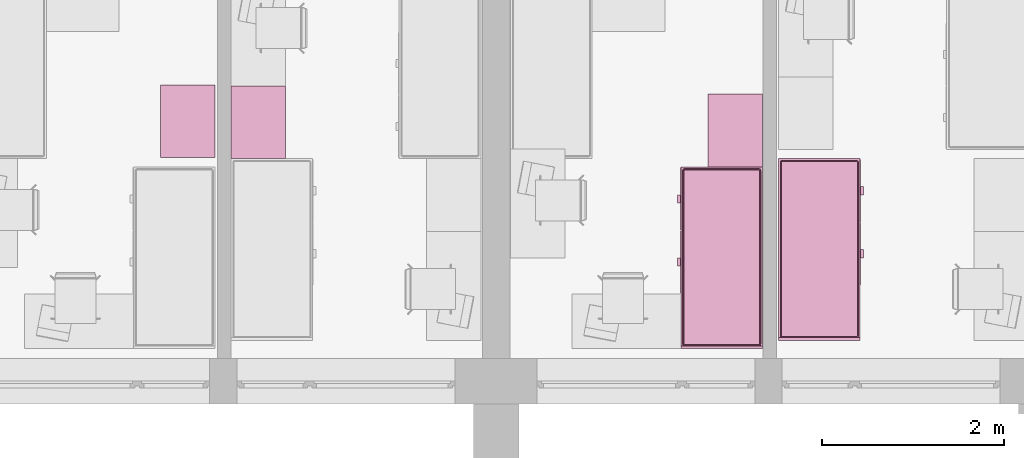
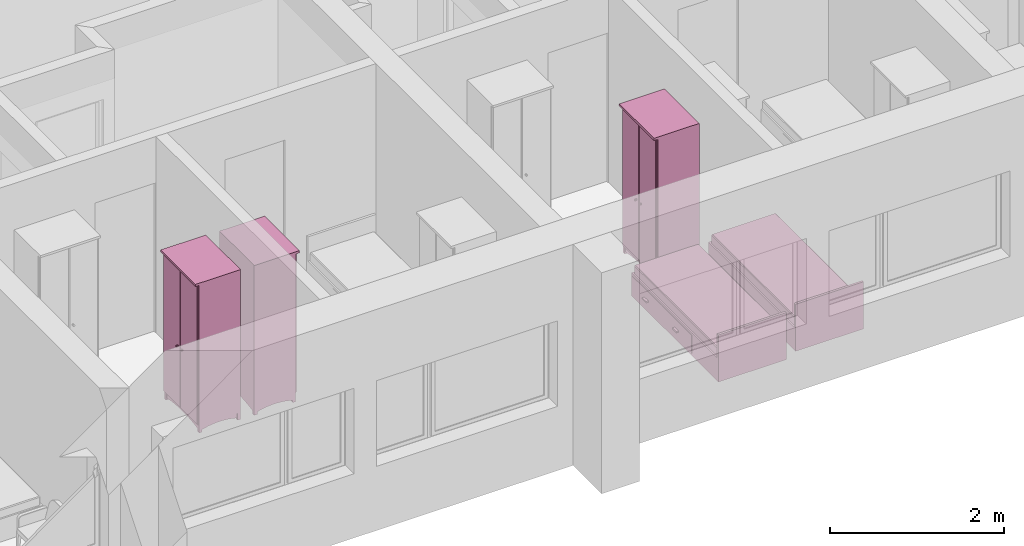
# One storey, part 129 of 172: 5 furnishings.
"""IFC2X3 building model written with IfcOpenShell, lengths in millimetres."""

from ifc_helpers import new_model, entity, si_unit, converted_unit, money_unit, direction, frame, origin_with_axes, place, context, subcontext, project, spatial, faceted_brep, source, transform, mapped, material, material_list, type_object, element, save


model = new_model("IFC2X3")

# Units and contexts
model_context = context("Model", 3, precision=1e-05, world=origin_with_axes(), true_north=direction((0.0, 1.0)))
body_context = subcontext(model_context, "Body", "Model", "MODEL_VIEW")
ifc_project = project(units=[si_unit("LENGTHUNIT", "METRE", prefix="MILLI"), si_unit("AREAUNIT", "SQUARE_METRE"), si_unit("VOLUMEUNIT", "CUBIC_METRE"), converted_unit("PLANEANGLEUNIT", "DEGREE", entity("IfcPlaneAngleMeasure", 0.0174532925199), si_unit("PLANEANGLEUNIT", "RADIAN"), dimensions=[0, 0, 0, 0, 0, 0, 0]), si_unit("SOLIDANGLEUNIT", "STERADIAN"), money_unit("USD"), converted_unit("TIMEUNIT", "Year", entity("IfcTimeMeasure", 31556926.0), si_unit("TIMEUNIT", "SECOND"), dimensions=[0, 0, 0, 0, 0, 0, 0]), si_unit("MASSUNIT", "GRAM"), si_unit("THERMODYNAMICTEMPERATUREUNIT", "DEGREE_CELSIUS"), si_unit("LUMINOUSINTENSITYUNIT", "LUMEN")], contexts=[model_context])

# Site, building, storey
site_placement = place(None, origin_with_axes())
site = spatial("IfcSite", under=ifc_project, at=site_placement, Name="Site", CompositionType="ELEMENT")
building_placement = place(site_placement, origin_with_axes())
building = spatial("IfcBuilding", under=site, at=building_placement, Name="Building", CompositionType="ELEMENT")
storey_placement = place(building_placement, frame((0.0, 0.0, 3200.0), z_axis=(0.0, 0.0, 1.0), x_axis=(1.0, 0.0, 0.0)))
storey = spatial("IfcBuildingStorey", under=building, at=storey_placement, Name="3KORRUS", CompositionType="ELEMENT", Elevation=3200.0)

# Furnishings
ifc_material = material(Name="Background")
ifc_material_list = material_list([ifc_material])
furnishing_element_type_1 = type_object("IfcFurnishingElementType", Name="Bed 19")
shared_shape_1 = source(origin_with_axes(), body_context, "Body", "Brep", [
    faceted_brep([(900.0, 1970.0, 0.0), (0.0, 1970.0, 0.0), (0.0, 2000.0, 0.0), (900.0, 2000.0, 0.0), (900.0, 1970.0, 660.0), (0.0, 1970.0, 660.0), (0.0, 2000.0, 660.0), (900.0, 2000.0, 660.0)], [[[0, 1, 2, 3]], [[1, 0, 4, 5]], [[2, 1, 5, 6]], [[3, 2, 6, 7]], [[0, 3, 7, 4]], [[5, 4, 7, 6]]]),
    faceted_brep([(900.0, 0.0, 0.0), (0.0, 0.0, 0.0), (0.0, 1970.0, 0.0), (900.0, 1970.0, 0.0), (900.0, 0.0, 320.0), (0.0, 0.0, 320.0), (0.0, 1970.0, 320.0), (900.0, 1970.0, 320.0)], [[[0, 1, 2, 3]], [[1, 0, 4, 5]], [[2, 1, 5, 6]], [[3, 2, 6, 7]], [[0, 3, 7, 4]], [[5, 4, 7, 6]]]),
    faceted_brep([(905.0, 10.0, 30.0), (900.0, 10.0, 30.0), (900.0, 695.0, 30.0), (905.0, 695.0, 30.0), (905.0, 10.0, 290.0), (900.0, 10.0, 290.0), (900.0, 695.0, 290.0), (905.0, 695.0, 290.0)], [[[0, 1, 2, 3]], [[1, 0, 4, 5]], [[2, 1, 5, 6]], [[3, 2, 6, 7]], [[0, 3, 7, 4]], [[5, 4, 7, 6]]]),
    faceted_brep([(935.0, 307.5, 150.0), (905.0, 307.5, 150.0), (905.0, 397.5, 150.0), (935.0, 397.5, 150.0), (935.0, 307.5, 170.0), (905.0, 307.5, 170.0), (905.0, 397.5, 170.0), (935.0, 397.5, 170.0)], [[[0, 1, 2, 3]], [[1, 0, 4, 5]], [[2, 1, 5, 6]], [[3, 2, 6, 7]], [[0, 3, 7, 4]], [[5, 4, 7, 6]]]),
    faceted_brep([(905.0, 705.0, 30.0), (900.0, 705.0, 30.0), (900.0, 1390.0, 30.0), (905.0, 1390.0, 30.0), (905.0, 705.0, 290.0), (900.0, 705.0, 290.0), (900.0, 1390.0, 290.0), (905.0, 1390.0, 290.0)], [[[0, 1, 2, 3]], [[1, 0, 4, 5]], [[2, 1, 5, 6]], [[3, 2, 6, 7]], [[0, 3, 7, 4]], [[5, 4, 7, 6]]]),
    faceted_brep([(935.0, 1002.5, 150.0), (905.0, 1002.5, 150.0), (905.0, 1092.5, 150.0), (935.0, 1092.5, 150.0), (935.0, 1002.5, 170.0), (905.0, 1002.5, 170.0), (905.0, 1092.5, 170.0), (935.0, 1092.5, 170.0)], [[[0, 1, 2, 3]], [[1, 0, 4, 5]], [[2, 1, 5, 6]], [[3, 2, 6, 7]], [[0, 3, 7, 4]], [[5, 4, 7, 6]]]),
    faceted_brep([(20.0, 40.0, 350.0), (20.0, 1950.0, 350.0), (21.522, 1957.654, 350.0), (25.858, 1964.142, 350.0), (32.346, 1968.478, 350.0), (40.0, 1970.0, 350.0), (860.0, 1970.0, 350.0), (867.654, 1968.478, 350.0), (874.142, 1964.142, 350.0), (878.478, 1957.654, 350.0), (880.0, 1950.0, 350.0), (880.0, 40.0, 350.0), (878.478, 32.346, 350.0), (874.142, 25.858, 350.0), (867.654, 21.522, 350.0), (860.0, 20.0, 350.0), (40.0, 20.0, 350.0), (32.346, 21.522, 350.0), (25.858, 25.858, 350.0), (21.522, 32.346, 350.0), (20.0, 40.0, 420.0), (20.0, 1950.0, 420.0), (21.522, 1957.654, 420.0), (25.858, 1964.142, 420.0), (32.346, 1968.478, 420.0), (40.0, 1970.0, 420.0), (860.0, 1970.0, 420.0), (867.654, 1968.478, 420.0), (874.142, 1964.142, 420.0), (878.478, 1957.654, 420.0), (880.0, 1950.0, 420.0), (880.0, 40.0, 420.0), (878.478, 32.346, 420.0), (874.142, 25.858, 420.0), (867.654, 21.522, 420.0), (860.0, 20.0, 420.0), (40.0, 20.0, 420.0), (32.346, 21.522, 420.0), (25.858, 25.858, 420.0), (21.522, 32.346, 420.0), (21.522, 40.15, 427.654), (21.522, 1949.85, 427.654), (22.956, 1957.06, 427.654), (26.955, 1963.045, 427.654), (32.94, 1967.044, 427.654), (40.15, 1968.478, 427.654), (859.85, 1968.478, 427.654), (867.06, 1967.044, 427.654), (873.045, 1963.045, 427.654), (877.044, 1957.06, 427.654), (878.478, 1949.85, 427.654), (878.478, 40.15, 427.654), (877.044, 32.94, 427.654), (873.045, 26.955, 427.654), (867.06, 22.956, 427.654), (859.85, 21.522, 427.654), (40.15, 21.522, 427.654), (32.94, 22.956, 427.654), (26.955, 26.955, 427.654), (22.956, 32.94, 427.654), (32.346, 41.216, 438.478), (32.346, 1948.784, 438.478), (33.152, 1952.836, 438.478), (34.759, 1955.241, 438.478), (37.164, 1956.848, 438.478), (41.216, 1957.654, 438.478), (858.784, 1957.654, 438.478), (862.836, 1956.848, 438.478), (865.241, 1955.241, 438.478), (866.848, 1952.836, 438.478), (867.654, 1948.784, 438.478), (867.654, 41.216, 438.478), (866.848, 37.164, 438.478), (865.241, 34.759, 438.478), (862.836, 33.152, 438.478), (858.784, 32.346, 438.478), (41.216, 32.346, 438.478), (37.164, 33.152, 438.478), (34.759, 34.759, 438.478), (33.152, 37.164, 438.478), (40.0, 41.97, 440.0), (40.0, 1948.03, 440.0), (40.327, 1949.673, 440.0), (40.0, 1950.0, 439.924), (41.97, 1950.0, 440.0), (858.03, 1950.0, 440.0), (859.673, 1949.673, 440.0), (860.0, 1950.0, 439.924), (860.0, 1948.03, 440.0), (860.0, 41.97, 440.0), (859.673, 40.327, 440.0), (860.0, 40.0, 439.924), (858.03, 40.0, 440.0), (41.97, 40.0, 440.0), (40.327, 40.327, 440.0), (40.0, 40.0, 439.924)], [[[0, 1, 2, 3, 4, 5, 6, 7, 8, 9, 10, 11, 12, 13, 14, 15, 16, 17, 18, 19]], [[1, 0, 20, 21]], [[2, 1, 21, 22]], [[3, 2, 22, 23]], [[4, 3, 23, 24]], [[5, 4, 24, 25]], [[6, 5, 25, 26]], [[7, 6, 26, 27]], [[8, 7, 27, 28]], [[9, 8, 28, 29]], [[10, 9, 29, 30]], [[11, 10, 30, 31]], [[12, 11, 31, 32]], [[13, 12, 32, 33]], [[14, 13, 33, 34]], [[15, 14, 34, 35]], [[16, 15, 35, 36]], [[17, 16, 36, 37]], [[18, 17, 37, 38]], [[19, 18, 38, 39]], [[0, 19, 39, 20]], [[21, 20, 40, 41]], [[22, 21, 41, 42]], [[23, 22, 42, 43]], [[24, 23, 43, 44]], [[25, 24, 44, 45]], [[26, 25, 45, 46]], [[27, 26, 46, 47]], [[28, 27, 47, 48]], [[29, 28, 48, 49]], [[30, 29, 49, 50]], [[31, 30, 50, 51]], [[32, 31, 51, 52]], [[33, 32, 52, 53]], [[34, 33, 53, 54]], [[35, 34, 54, 55]], [[36, 35, 55, 56]], [[37, 36, 56, 57]], [[38, 37, 57, 58]], [[39, 38, 58, 59]], [[20, 39, 59, 40]], [[41, 40, 60, 61]], [[42, 41, 61, 62]], [[43, 42, 62, 63]], [[44, 43, 63, 64]], [[45, 44, 64, 65]], [[46, 45, 65, 66]], [[47, 46, 66, 67]], [[48, 47, 67, 68]], [[49, 48, 68, 69]], [[50, 49, 69, 70]], [[51, 50, 70, 71]], [[52, 51, 71, 72]], [[53, 52, 72, 73]], [[54, 53, 73, 74]], [[55, 54, 74, 75]], [[56, 55, 75, 76]], [[57, 56, 76, 77]], [[58, 57, 77, 78]], [[59, 58, 78, 79]], [[40, 59, 79, 60]], [[61, 60, 80, 81]], [[62, 61, 81, 82, 83]], [[63, 62, 83]], [[64, 63, 83]], [[65, 64, 83, 82, 84]], [[66, 65, 84, 85]], [[67, 66, 85, 86, 87]], [[68, 67, 87]], [[69, 68, 87]], [[70, 69, 87, 86, 88]], [[71, 70, 88, 89]], [[72, 71, 89, 90, 91]], [[73, 72, 91]], [[74, 73, 91]], [[75, 74, 91, 90, 92]], [[76, 75, 92, 93]], [[77, 76, 93, 94, 95]], [[78, 77, 95]], [[79, 78, 95]], [[60, 79, 95, 94, 80]], [[81, 80, 94, 93, 92, 90, 89, 88, 86, 85, 84, 82]]]),
    faceted_brep([(20.0, 40.0, 350.0), (21.522, 32.346, 350.0), (25.858, 25.858, 350.0), (32.346, 21.522, 350.0), (40.0, 20.0, 350.0), (860.0, 20.0, 350.0), (867.654, 21.522, 350.0), (874.142, 25.858, 350.0), (878.478, 32.346, 350.0), (880.0, 40.0, 350.0), (880.0, 1950.0, 350.0), (878.478, 1957.654, 350.0), (874.142, 1964.142, 350.0), (867.654, 1968.478, 350.0), (860.0, 1970.0, 350.0), (40.0, 1970.0, 350.0), (32.346, 1968.478, 350.0), (25.858, 1964.142, 350.0), (21.522, 1957.654, 350.0), (20.0, 1950.0, 350.0), (20.0, 40.0, 320.0), (21.522, 32.346, 320.0), (25.858, 25.858, 320.0), (32.346, 21.522, 320.0), (40.0, 20.0, 320.0), (860.0, 20.0, 320.0), (867.654, 21.522, 320.0), (874.142, 25.858, 320.0), (878.478, 32.346, 320.0), (880.0, 40.0, 320.0), (880.0, 1950.0, 320.0), (878.478, 1957.654, 320.0), (874.142, 1964.142, 320.0), (867.654, 1968.478, 320.0), (860.0, 1970.0, 320.0), (40.0, 1970.0, 320.0), (32.346, 1968.478, 320.0), (25.858, 1964.142, 320.0), (21.522, 1957.654, 320.0), (20.0, 1950.0, 320.0)], [[[0, 1, 2, 3, 4, 5, 6, 7, 8, 9, 10, 11, 12, 13, 14, 15, 16, 17, 18, 19]], [[0, 20, 21, 1]], [[1, 21, 22, 2]], [[2, 22, 23, 3]], [[3, 23, 24, 4]], [[4, 24, 25, 5]], [[5, 25, 26, 6]], [[6, 26, 27, 7]], [[7, 27, 28, 8]], [[8, 28, 29, 9]], [[9, 29, 30, 10]], [[10, 30, 31, 11]], [[11, 31, 32, 12]], [[12, 32, 33, 13]], [[13, 33, 34, 14]], [[14, 34, 35, 15]], [[15, 35, 36, 16]], [[16, 36, 37, 17]], [[17, 37, 38, 18]], [[18, 38, 39, 19]], [[19, 39, 20, 0]], [[20, 39, 38, 37, 36, 35, 34, 33, 32, 31, 30, 29, 28, 27, 26, 25, 24, 23, 22, 21]]]),
])
furnishing_1_placement = place(storey_placement, frame((8790.99169205, -17529.2398994, 0.0), z_axis=(0.0, 0.0, 1.0), x_axis=(-1.0, 0.0, 0.0)))
element("IfcFurnishingElement", 1, at=furnishing_1_placement, inside=storey, type_object=furnishing_element_type_1, material=ifc_material_list, Name="FU - 013", context=body_context, shape_type="MappedRepresentation", body=[
    mapped(shared_shape_1, transform((0.0, 0.0, 0.0))),
])
furnishing_element_type_2 = type_object("IfcFurnishingElementType", Name="Cupboard 19")
shared_shape_2 = source(origin_with_axes(), body_context, "Body", "Brep", [
    faceted_brep([(-780.0, 600.0, 120.0), (-780.0, 580.0, 120.0), (-780.0, 580.0, 2050.0), (-780.0, 600.0, 2050.0), (-20.0, 600.0, 120.0), (-20.0, 580.0, 120.0), (-20.0, 580.0, 2050.0), (-20.0, 600.0, 2050.0)], [[[0, 1, 2, 3]], [[0, 4, 5, 1]], [[1, 5, 6, 2]], [[3, 2, 6, 7]], [[4, 0, 3, 7]], [[5, 4, 7, 6]]]),
    faceted_brep([(0.0, 50.0, 100.0), (-20.0, 50.0, 100.0), (-20.0, 600.0, 100.0), (0.0, 600.0, 100.0), (0.0, 50.0, 2070.0), (-20.0, 50.0, 2070.0), (-20.0, 600.0, 2070.0), (0.0, 600.0, 2070.0)], [[[0, 1, 2, 3]], [[1, 0, 4, 5]], [[2, 1, 5, 6]], [[3, 2, 6, 7]], [[0, 3, 7, 4]], [[5, 4, 7, 6]]]),
    faceted_brep([(-780.0, 50.0, 100.0), (-800.0, 50.0, 100.0), (-800.0, 600.0, 100.0), (-780.0, 600.0, 100.0), (-780.0, 50.0, 2070.0), (-800.0, 50.0, 2070.0), (-800.0, 600.0, 2070.0), (-780.0, 600.0, 2070.0)], [[[0, 1, 2, 3]], [[1, 0, 4, 5]], [[2, 1, 5, 6]], [[3, 2, 6, 7]], [[0, 3, 7, 4]], [[5, 4, 7, 6]]]),
    faceted_brep([(-20.0, 50.0, 100.0), (-780.0, 50.0, 100.0), (-780.0, 600.0, 100.0), (-20.0, 600.0, 100.0), (-20.0, 50.0, 120.0), (-780.0, 50.0, 120.0), (-780.0, 600.0, 120.0), (-20.0, 600.0, 120.0)], [[[0, 1, 2, 3]], [[1, 0, 4, 5]], [[2, 1, 5, 6]], [[3, 2, 6, 7]], [[0, 3, 7, 4]], [[5, 4, 7, 6]]]),
    faceted_brep([(-20.0, 50.0, 2050.0), (-780.0, 50.0, 2050.0), (-780.0, 600.0, 2050.0), (-20.0, 600.0, 2050.0), (-20.0, 50.0, 2070.0), (-780.0, 50.0, 2070.0), (-780.0, 600.0, 2070.0), (-20.0, 600.0, 2070.0)], [[[0, 1, 2, 3]], [[1, 0, 4, 5]], [[2, 1, 5, 6]], [[3, 2, 6, 7]], [[0, 3, 7, 4]], [[5, 4, 7, 6]]]),
    faceted_brep([(0.0, 600.0, 2070.0), (0.0, 600.0, 2100.0), (0.0, 0.0, 2100.0), (0.0, 0.0, 2070.0), (-800.0, 600.0, 2070.0), (-800.0, 600.0, 2100.0), (-800.0, 0.0, 2100.0), (-800.0, 0.0, 2070.0)], [[[0, 1, 2, 3]], [[4, 5, 1, 0]], [[1, 5, 6, 2]], [[3, 2, 6, 7]], [[0, 3, 7, 4]], [[7, 6, 5, 4]]]),
    faceted_brep([(-760.0, 590.0, 25.0), (-640.962, 590.0, 45.8), (-640.962, 570.0, 45.8), (-760.0, 570.0, 25.0), (-760.0, 590.0, 100.0), (-40.0, 590.0, 100.0), (-40.0, 590.0, 25.0), (-159.038, 590.0, 45.8), (-279.23, 590.0, 58.32), (-400.0, 590.0, 62.5), (-520.77, 590.0, 58.32), (-520.77, 570.0, 58.32), (-400.0, 570.0, 62.5), (-279.23, 570.0, 58.32), (-159.038, 570.0, 45.8), (-40.0, 570.0, 25.0), (-40.0, 570.0, 100.0), (-760.0, 570.0, 100.0)], [[[0, 1, 2, 3]], [[0, 4, 5, 6, 7, 8, 9, 10, 1]], [[1, 10, 11, 2]], [[3, 2, 11, 12, 13, 14, 15, 16, 17]], [[4, 0, 3, 17]], [[5, 4, 17, 16]], [[6, 5, 16, 15]], [[7, 6, 15, 14]], [[8, 7, 14, 13]], [[9, 8, 13, 12]], [[10, 9, 12, 11]]]),
    faceted_brep([(-760.0, 80.0, 25.0), (-640.962, 80.0, 45.8), (-640.962, 60.0, 45.8), (-760.0, 60.0, 25.0), (-760.0, 80.0, 100.0), (-40.0, 80.0, 100.0), (-40.0, 80.0, 25.0), (-159.038, 80.0, 45.8), (-279.23, 80.0, 58.32), (-400.0, 80.0, 62.5), (-520.77, 80.0, 58.32), (-520.77, 60.0, 58.32), (-400.0, 60.0, 62.5), (-279.23, 60.0, 58.32), (-159.038, 60.0, 45.8), (-40.0, 60.0, 25.0), (-40.0, 60.0, 100.0), (-760.0, 60.0, 100.0)], [[[0, 1, 2, 3]], [[0, 4, 5, 6, 7, 8, 9, 10, 1]], [[1, 10, 11, 2]], [[3, 2, 11, 12, 13, 14, 15, 16, 17]], [[4, 0, 3, 17]], [[5, 4, 17, 16]], [[6, 5, 16, 15]], [[7, 6, 15, 14]], [[8, 7, 14, 13]], [[9, 8, 13, 12]], [[10, 9, 12, 11]]]),
    faceted_brep([(-790.0, 90.0, 25.0), (-790.0, 141.266, 38.072), (-770.0, 141.266, 38.072), (-770.0, 90.0, 25.0), (-790.0, 90.0, 100.0), (-790.0, 560.0, 100.0), (-790.0, 560.0, 25.0), (-790.0, 508.734, 38.072), (-790.0, 456.752, 47.92), (-790.0, 404.257, 54.508), (-790.0, 351.453, 57.808), (-790.0, 298.547, 57.808), (-790.0, 245.743, 54.508), (-790.0, 193.248, 47.92), (-770.0, 193.248, 47.92), (-770.0, 245.743, 54.508), (-770.0, 298.547, 57.808), (-770.0, 351.453, 57.808), (-770.0, 404.257, 54.508), (-770.0, 456.752, 47.92), (-770.0, 508.734, 38.072), (-770.0, 560.0, 25.0), (-770.0, 560.0, 100.0), (-770.0, 90.0, 100.0)], [[[0, 1, 2, 3]], [[0, 4, 5, 6, 7, 8, 9, 10, 11, 12, 13, 1]], [[1, 13, 14, 2]], [[3, 2, 14, 15, 16, 17, 18, 19, 20, 21, 22, 23]], [[4, 0, 3, 23]], [[5, 4, 23, 22]], [[6, 5, 22, 21]], [[7, 6, 21, 20]], [[8, 7, 20, 19]], [[9, 8, 19, 18]], [[10, 9, 18, 17]], [[11, 10, 17, 16]], [[12, 11, 16, 15]], [[13, 12, 15, 14]]]),
    faceted_brep([(-30.0, 90.0, 25.0), (-30.0, 141.266, 38.072), (-10.0, 141.266, 38.072), (-10.0, 90.0, 25.0), (-30.0, 90.0, 100.0), (-30.0, 560.0, 100.0), (-30.0, 560.0, 25.0), (-30.0, 508.734, 38.072), (-30.0, 456.752, 47.92), (-30.0, 404.257, 54.508), (-30.0, 351.453, 57.808), (-30.0, 298.547, 57.808), (-30.0, 245.743, 54.508), (-30.0, 193.248, 47.92), (-10.0, 193.248, 47.92), (-10.0, 245.743, 54.508), (-10.0, 298.547, 57.808), (-10.0, 351.453, 57.808), (-10.0, 404.257, 54.508), (-10.0, 456.752, 47.92), (-10.0, 508.734, 38.072), (-10.0, 560.0, 25.0), (-10.0, 560.0, 100.0), (-10.0, 90.0, 100.0)], [[[0, 1, 2, 3]], [[0, 4, 5, 6, 7, 8, 9, 10, 11, 12, 13, 1]], [[1, 13, 14, 2]], [[3, 2, 14, 15, 16, 17, 18, 19, 20, 21, 22, 23]], [[4, 0, 3, 23]], [[5, 4, 23, 22]], [[6, 5, 22, 21]], [[7, 6, 21, 20]], [[8, 7, 20, 19]], [[9, 8, 19, 18]], [[10, 9, 18, 17]], [[11, 10, 17, 16]], [[12, 11, 16, 15]], [[13, 12, 15, 14]]]),
    faceted_brep([(-760.0, 560.0, 0.0), (-760.0, 600.0, 0.0), (-760.0, 600.0, 100.0), (-760.0, 560.0, 100.0), (-800.0, 560.0, 0.0), (-800.0, 600.0, 0.0), (-800.0, 600.0, 100.0), (-800.0, 560.0, 100.0)], [[[0, 1, 2, 3]], [[0, 4, 5, 1]], [[1, 5, 6, 2]], [[3, 2, 6, 7]], [[4, 0, 3, 7]], [[5, 4, 7, 6]]]),
    faceted_brep([(0.0, 560.0, 0.0), (0.0, 600.0, 0.0), (0.0, 600.0, 100.0), (0.0, 560.0, 100.0), (-40.0, 560.0, 0.0), (-40.0, 600.0, 0.0), (-40.0, 600.0, 100.0), (-40.0, 560.0, 100.0)], [[[0, 1, 2, 3]], [[0, 4, 5, 1]], [[1, 5, 6, 2]], [[3, 2, 6, 7]], [[4, 0, 3, 7]], [[5, 4, 7, 6]]]),
    faceted_brep([(-760.0, 50.0, 0.0), (-760.0, 90.0, 0.0), (-760.0, 90.0, 100.0), (-760.0, 50.0, 100.0), (-800.0, 50.0, 0.0), (-800.0, 90.0, 0.0), (-800.0, 90.0, 100.0), (-800.0, 50.0, 100.0)], [[[0, 1, 2, 3]], [[0, 4, 5, 1]], [[1, 5, 6, 2]], [[3, 2, 6, 7]], [[4, 0, 3, 7]], [[5, 4, 7, 6]]]),
    faceted_brep([(0.0, 50.0, 0.0), (0.0, 90.0, 0.0), (0.0, 90.0, 100.0), (0.0, 50.0, 100.0), (-40.0, 50.0, 0.0), (-40.0, 90.0, 0.0), (-40.0, 90.0, 100.0), (-40.0, 50.0, 100.0)], [[[0, 1, 2, 3]], [[0, 4, 5, 1]], [[1, 5, 6, 2]], [[3, 2, 6, 7]], [[4, 0, 3, 7]], [[5, 4, 7, 6]]]),
    faceted_brep([(-780.0, 580.0, 587.5), (-780.0, 50.0, 587.5), (-780.0, 50.0, 607.5), (-780.0, 580.0, 607.5), (-20.0, 580.0, 587.5), (-20.0, 50.0, 587.5), (-20.0, 50.0, 607.5), (-20.0, 580.0, 607.5)], [[[0, 1, 2, 3]], [[0, 4, 5, 1]], [[1, 5, 6, 2]], [[3, 2, 6, 7]], [[4, 0, 3, 7]], [[5, 4, 7, 6]]]),
    faceted_brep([(-780.0, 580.0, 1075.0), (-780.0, 50.0, 1075.0), (-780.0, 50.0, 1095.0), (-780.0, 580.0, 1095.0), (-20.0, 580.0, 1075.0), (-20.0, 50.0, 1075.0), (-20.0, 50.0, 1095.0), (-20.0, 580.0, 1095.0)], [[[0, 1, 2, 3]], [[0, 4, 5, 1]], [[1, 5, 6, 2]], [[3, 2, 6, 7]], [[4, 0, 3, 7]], [[5, 4, 7, 6]]]),
    faceted_brep([(-780.0, 580.0, 1562.5), (-780.0, 50.0, 1562.5), (-780.0, 50.0, 1582.5), (-780.0, 580.0, 1582.5), (-20.0, 580.0, 1562.5), (-20.0, 50.0, 1562.5), (-20.0, 50.0, 1582.5), (-20.0, 580.0, 1582.5)], [[[0, 1, 2, 3]], [[0, 4, 5, 1]], [[1, 5, 6, 2]], [[3, 2, 6, 7]], [[4, 0, 3, 7]], [[5, 4, 7, 6]]]),
    faceted_brep([(-789.5, 50.0, 110.5), (-789.5, 50.0, 2059.5), (-400.5, 50.0, 2059.5), (-400.5, 50.0, 110.5), (-789.5, 40.0, 110.5), (-789.5, 40.0, 2059.5), (-400.5, 40.0, 2059.5), (-400.5, 40.0, 110.5), (-779.5, 30.0, 120.5), (-779.5, 30.0, 2049.5), (-410.5, 30.0, 2049.5), (-410.5, 30.0, 120.5)], [[[0, 1, 2, 3]], [[1, 0, 4, 5]], [[2, 1, 5, 6]], [[3, 2, 6, 7]], [[0, 3, 7, 4]], [[5, 4, 8, 9]], [[6, 5, 9, 10]], [[7, 6, 10, 11]], [[4, 7, 11, 8]], [[10, 9, 8, 11]]]),
    faceted_brep([(-399.5, 50.0, 110.5), (-399.5, 50.0, 2059.5), (-10.5, 50.0, 2059.5), (-10.5, 50.0, 110.5), (-399.5, 40.0, 110.5), (-399.5, 40.0, 2059.5), (-10.5, 40.0, 2059.5), (-10.5, 40.0, 110.5), (-389.5, 30.0, 120.5), (-389.5, 30.0, 2049.5), (-20.5, 30.0, 2049.5), (-20.5, 30.0, 120.5)], [[[0, 1, 2, 3]], [[1, 0, 4, 5]], [[2, 1, 5, 6]], [[3, 2, 6, 7]], [[0, 3, 7, 4]], [[5, 4, 8, 9]], [[6, 5, 9, 10]], [[7, 6, 10, 11]], [[4, 7, 11, 8]], [[10, 9, 8, 11]]]),
    faceted_brep([(-339.608, 30.0, 954.0), (-344.0, 30.0, 949.608), (-350.0, 30.0, 948.0), (-356.0, 30.0, 949.608), (-360.392, 30.0, 954.0), (-362.0, 30.0, 960.0), (-360.392, 30.0, 966.0), (-356.0, 30.0, 970.392), (-350.0, 30.0, 972.0), (-344.0, 30.0, 970.392), (-339.608, 30.0, 966.0), (-338.0, 30.0, 960.0), (-339.608, 5.0, 954.0), (-344.0, 5.0, 949.608), (-350.0, 5.0, 948.0), (-356.0, 5.0, 949.608), (-360.392, 5.0, 954.0), (-362.0, 5.0, 960.0), (-360.392, 5.0, 966.0), (-356.0, 5.0, 970.392), (-350.0, 5.0, 972.0), (-344.0, 5.0, 970.392), (-339.608, 5.0, 966.0), (-338.0, 5.0, 960.0)], [[[0, 1, 2, 3, 4, 5, 6, 7, 8, 9, 10, 11]], [[1, 0, 12, 13]], [[2, 1, 13, 14]], [[3, 2, 14, 15]], [[4, 3, 15, 16]], [[5, 4, 16, 17]], [[6, 5, 17, 18]], [[7, 6, 18, 19]], [[8, 7, 19, 20]], [[9, 8, 20, 21]], [[10, 9, 21, 22]], [[11, 10, 22, 23]], [[0, 11, 23, 12]], [[12, 23, 22, 21, 20, 19, 18, 17, 16, 15, 14, 13]]]),
    faceted_brep([(-460.392, 30.0, 954.0), (-462.0, 30.0, 960.0), (-460.392, 30.0, 966.0), (-456.0, 30.0, 970.392), (-450.0, 30.0, 972.0), (-444.0, 30.0, 970.392), (-439.608, 30.0, 966.0), (-438.0, 30.0, 960.0), (-439.608, 30.0, 954.0), (-444.0, 30.0, 949.608), (-450.0, 30.0, 948.0), (-456.0, 30.0, 949.608), (-460.392, 5.0, 954.0), (-462.0, 5.0, 960.0), (-460.392, 5.0, 966.0), (-456.0, 5.0, 970.392), (-450.0, 5.0, 972.0), (-444.0, 5.0, 970.392), (-439.608, 5.0, 966.0), (-438.0, 5.0, 960.0), (-439.608, 5.0, 954.0), (-444.0, 5.0, 949.608), (-450.0, 5.0, 948.0), (-456.0, 5.0, 949.608)], [[[0, 1, 2, 3, 4, 5, 6, 7, 8, 9, 10, 11]], [[0, 12, 13, 1]], [[1, 13, 14, 2]], [[2, 14, 15, 3]], [[3, 15, 16, 4]], [[4, 16, 17, 5]], [[5, 17, 18, 6]], [[6, 18, 19, 7]], [[7, 19, 20, 8]], [[8, 20, 21, 9]], [[9, 21, 22, 10]], [[10, 22, 23, 11]], [[11, 23, 12, 0]], [[12, 23, 22, 21, 20, 19, 18, 17, 16, 15, 14, 13]]]),
])
for number, where, z_axis, x_axis, name in (
    (2, (2164.70329669, -17429.2398994, 0.0), (0.0, 0.0, 1.0), (0.0, -1.0, 0.0), "FU - 014"),
    (3, (3539.70329669, -16639.2398994, 0.0), (0.0, 0.0, 1.0), (0.0, 1.0, 0.0), "FU - 014"),
    (4, (8190.99169205, -17529.2398994, 0.0), (0.0, 0.0, 1.0), (0.0, -1.0, 0.0), "FU - 014"),
):
    element("IfcFurnishingElement", number, at=place(storey_placement, frame(where, z_axis=z_axis, x_axis=x_axis)), inside=storey, type_object=furnishing_element_type_2, material=ifc_material_list, Name=name, context=body_context, shape_type="MappedRepresentation", body=[
        mapped(shared_shape_2, transform((0.0, 0.0, 0.0))),
    ])
shared_shape_3 = source(origin_with_axes(), body_context, "Body", "Brep", [
    faceted_brep([(-900.0, 1970.0, 0.0), (-900.0, 2000.0, 0.0), (0.0, 2000.0, 0.0), (0.0, 1970.0, 0.0), (-900.0, 1970.0, 660.0), (-900.0, 2000.0, 660.0), (0.0, 2000.0, 660.0), (0.0, 1970.0, 660.0)], [[[0, 1, 2, 3]], [[0, 4, 5, 1]], [[1, 5, 6, 2]], [[2, 6, 7, 3]], [[3, 7, 4, 0]], [[7, 6, 5, 4]]]),
    faceted_brep([(-900.0, 0.0, 0.0), (-900.0, 1970.0, 0.0), (0.0, 1970.0, 0.0), (0.0, 0.0, 0.0), (-900.0, 0.0, 320.0), (-900.0, 1970.0, 320.0), (0.0, 1970.0, 320.0), (0.0, 0.0, 320.0)], [[[0, 1, 2, 3]], [[0, 4, 5, 1]], [[1, 5, 6, 2]], [[2, 6, 7, 3]], [[3, 7, 4, 0]], [[7, 6, 5, 4]]]),
    faceted_brep([(-905.0, 10.0, 30.0), (-905.0, 695.0, 30.0), (-900.0, 695.0, 30.0), (-900.0, 10.0, 30.0), (-905.0, 10.0, 290.0), (-905.0, 695.0, 290.0), (-900.0, 695.0, 290.0), (-900.0, 10.0, 290.0)], [[[0, 1, 2, 3]], [[0, 4, 5, 1]], [[1, 5, 6, 2]], [[2, 6, 7, 3]], [[3, 7, 4, 0]], [[7, 6, 5, 4]]]),
    faceted_brep([(-935.0, 307.5, 150.0), (-935.0, 397.5, 150.0), (-905.0, 397.5, 150.0), (-905.0, 307.5, 150.0), (-935.0, 307.5, 170.0), (-935.0, 397.5, 170.0), (-905.0, 397.5, 170.0), (-905.0, 307.5, 170.0)], [[[0, 1, 2, 3]], [[0, 4, 5, 1]], [[1, 5, 6, 2]], [[2, 6, 7, 3]], [[3, 7, 4, 0]], [[7, 6, 5, 4]]]),
    faceted_brep([(-905.0, 705.0, 30.0), (-905.0, 1390.0, 30.0), (-900.0, 1390.0, 30.0), (-900.0, 705.0, 30.0), (-905.0, 705.0, 290.0), (-905.0, 1390.0, 290.0), (-900.0, 1390.0, 290.0), (-900.0, 705.0, 290.0)], [[[0, 1, 2, 3]], [[0, 4, 5, 1]], [[1, 5, 6, 2]], [[2, 6, 7, 3]], [[3, 7, 4, 0]], [[7, 6, 5, 4]]]),
    faceted_brep([(-935.0, 1002.5, 150.0), (-935.0, 1092.5, 150.0), (-905.0, 1092.5, 150.0), (-905.0, 1002.5, 150.0), (-935.0, 1002.5, 170.0), (-935.0, 1092.5, 170.0), (-905.0, 1092.5, 170.0), (-905.0, 1002.5, 170.0)], [[[0, 1, 2, 3]], [[0, 4, 5, 1]], [[1, 5, 6, 2]], [[2, 6, 7, 3]], [[3, 7, 4, 0]], [[7, 6, 5, 4]]]),
    faceted_brep([(-20.0, 40.0, 350.0), (-21.522, 32.346, 350.0), (-25.858, 25.858, 350.0), (-32.346, 21.522, 350.0), (-40.0, 20.0, 350.0), (-860.0, 20.0, 350.0), (-867.654, 21.522, 350.0), (-874.142, 25.858, 350.0), (-878.478, 32.346, 350.0), (-880.0, 40.0, 350.0), (-880.0, 1950.0, 350.0), (-878.478, 1957.654, 350.0), (-874.142, 1964.142, 350.0), (-867.654, 1968.478, 350.0), (-860.0, 1970.0, 350.0), (-40.0, 1970.0, 350.0), (-32.346, 1968.478, 350.0), (-25.858, 1964.142, 350.0), (-21.522, 1957.654, 350.0), (-20.0, 1950.0, 350.0), (-20.0, 40.0, 420.0), (-21.522, 32.346, 420.0), (-25.858, 25.858, 420.0), (-32.346, 21.522, 420.0), (-40.0, 20.0, 420.0), (-860.0, 20.0, 420.0), (-867.654, 21.522, 420.0), (-874.142, 25.858, 420.0), (-878.478, 32.346, 420.0), (-880.0, 40.0, 420.0), (-880.0, 1950.0, 420.0), (-878.478, 1957.654, 420.0), (-874.142, 1964.142, 420.0), (-867.654, 1968.478, 420.0), (-860.0, 1970.0, 420.0), (-40.0, 1970.0, 420.0), (-32.346, 1968.478, 420.0), (-25.858, 1964.142, 420.0), (-21.522, 1957.654, 420.0), (-20.0, 1950.0, 420.0), (-21.522, 40.15, 427.654), (-22.956, 32.94, 427.654), (-26.955, 26.955, 427.654), (-32.94, 22.956, 427.654), (-40.15, 21.522, 427.654), (-859.85, 21.522, 427.654), (-867.06, 22.956, 427.654), (-873.045, 26.955, 427.654), (-877.044, 32.94, 427.654), (-878.478, 40.15, 427.654), (-878.478, 1949.85, 427.654), (-877.044, 1957.06, 427.654), (-873.045, 1963.045, 427.654), (-867.06, 1967.044, 427.654), (-859.85, 1968.478, 427.654), (-40.15, 1968.478, 427.654), (-32.94, 1967.044, 427.654), (-26.955, 1963.045, 427.654), (-22.956, 1957.06, 427.654), (-21.522, 1949.85, 427.654), (-32.346, 41.216, 438.478), (-33.152, 37.164, 438.478), (-34.759, 34.759, 438.478), (-37.164, 33.152, 438.478), (-41.216, 32.346, 438.478), (-858.784, 32.346, 438.478), (-862.836, 33.152, 438.478), (-865.241, 34.759, 438.478), (-866.848, 37.164, 438.478), (-867.654, 41.216, 438.478), (-867.654, 1948.784, 438.478), (-866.848, 1952.836, 438.478), (-865.241, 1955.241, 438.478), (-862.836, 1956.848, 438.478), (-858.784, 1957.654, 438.478), (-41.216, 1957.654, 438.478), (-37.164, 1956.848, 438.478), (-34.759, 1955.241, 438.478), (-33.152, 1952.836, 438.478), (-32.346, 1948.784, 438.478), (-40.0, 41.97, 440.0), (-40.327, 40.327, 440.0), (-40.0, 40.0, 439.924), (-41.97, 40.0, 440.0), (-858.03, 40.0, 440.0), (-859.673, 40.327, 440.0), (-860.0, 40.0, 439.924), (-860.0, 41.97, 440.0), (-860.0, 1948.03, 440.0), (-859.673, 1949.673, 440.0), (-860.0, 1950.0, 439.924), (-858.03, 1950.0, 440.0), (-41.97, 1950.0, 440.0), (-40.327, 1949.673, 440.0), (-40.0, 1950.0, 439.924), (-40.0, 1948.03, 440.0)], [[[0, 1, 2, 3, 4, 5, 6, 7, 8, 9, 10, 11, 12, 13, 14, 15, 16, 17, 18, 19]], [[0, 20, 21, 1]], [[1, 21, 22, 2]], [[2, 22, 23, 3]], [[3, 23, 24, 4]], [[4, 24, 25, 5]], [[5, 25, 26, 6]], [[6, 26, 27, 7]], [[7, 27, 28, 8]], [[8, 28, 29, 9]], [[9, 29, 30, 10]], [[10, 30, 31, 11]], [[11, 31, 32, 12]], [[12, 32, 33, 13]], [[13, 33, 34, 14]], [[14, 34, 35, 15]], [[15, 35, 36, 16]], [[16, 36, 37, 17]], [[17, 37, 38, 18]], [[18, 38, 39, 19]], [[19, 39, 20, 0]], [[20, 40, 41, 21]], [[21, 41, 42, 22]], [[22, 42, 43, 23]], [[23, 43, 44, 24]], [[24, 44, 45, 25]], [[25, 45, 46, 26]], [[26, 46, 47, 27]], [[27, 47, 48, 28]], [[28, 48, 49, 29]], [[29, 49, 50, 30]], [[30, 50, 51, 31]], [[31, 51, 52, 32]], [[32, 52, 53, 33]], [[33, 53, 54, 34]], [[34, 54, 55, 35]], [[35, 55, 56, 36]], [[36, 56, 57, 37]], [[37, 57, 58, 38]], [[38, 58, 59, 39]], [[39, 59, 40, 20]], [[40, 60, 61, 41]], [[41, 61, 62, 42]], [[42, 62, 63, 43]], [[43, 63, 64, 44]], [[44, 64, 65, 45]], [[45, 65, 66, 46]], [[46, 66, 67, 47]], [[47, 67, 68, 48]], [[48, 68, 69, 49]], [[49, 69, 70, 50]], [[50, 70, 71, 51]], [[51, 71, 72, 52]], [[52, 72, 73, 53]], [[53, 73, 74, 54]], [[54, 74, 75, 55]], [[55, 75, 76, 56]], [[56, 76, 77, 57]], [[57, 77, 78, 58]], [[58, 78, 79, 59]], [[59, 79, 60, 40]], [[60, 80, 81, 82, 61]], [[61, 82, 62]], [[62, 82, 63]], [[63, 82, 81, 83, 64]], [[64, 83, 84, 65]], [[65, 84, 85, 86, 66]], [[66, 86, 67]], [[67, 86, 68]], [[68, 86, 85, 87, 69]], [[69, 87, 88, 70]], [[70, 88, 89, 90, 71]], [[71, 90, 72]], [[72, 90, 73]], [[73, 90, 89, 91, 74]], [[74, 91, 92, 75]], [[75, 92, 93, 94, 76]], [[76, 94, 77]], [[77, 94, 78]], [[78, 94, 93, 95, 79]], [[79, 95, 80, 60]], [[95, 93, 92, 91, 89, 88, 87, 85, 84, 83, 81, 80]]]),
    faceted_brep([(-20.0, 40.0, 350.0), (-20.0, 1950.0, 350.0), (-21.522, 1957.654, 350.0), (-25.858, 1964.142, 350.0), (-32.346, 1968.478, 350.0), (-40.0, 1970.0, 350.0), (-860.0, 1970.0, 350.0), (-867.654, 1968.478, 350.0), (-874.142, 1964.142, 350.0), (-878.478, 1957.654, 350.0), (-880.0, 1950.0, 350.0), (-880.0, 40.0, 350.0), (-878.478, 32.346, 350.0), (-874.142, 25.858, 350.0), (-867.654, 21.522, 350.0), (-860.0, 20.0, 350.0), (-40.0, 20.0, 350.0), (-32.346, 21.522, 350.0), (-25.858, 25.858, 350.0), (-21.522, 32.346, 350.0), (-20.0, 40.0, 320.0), (-20.0, 1950.0, 320.0), (-21.522, 1957.654, 320.0), (-25.858, 1964.142, 320.0), (-32.346, 1968.478, 320.0), (-40.0, 1970.0, 320.0), (-860.0, 1970.0, 320.0), (-867.654, 1968.478, 320.0), (-874.142, 1964.142, 320.0), (-878.478, 1957.654, 320.0), (-880.0, 1950.0, 320.0), (-880.0, 40.0, 320.0), (-878.478, 32.346, 320.0), (-874.142, 25.858, 320.0), (-867.654, 21.522, 320.0), (-860.0, 20.0, 320.0), (-40.0, 20.0, 320.0), (-32.346, 21.522, 320.0), (-25.858, 25.858, 320.0), (-21.522, 32.346, 320.0)], [[[0, 1, 2, 3, 4, 5, 6, 7, 8, 9, 10, 11, 12, 13, 14, 15, 16, 17, 18, 19]], [[1, 0, 20, 21]], [[2, 1, 21, 22]], [[3, 2, 22, 23]], [[4, 3, 23, 24]], [[5, 4, 24, 25]], [[6, 5, 25, 26]], [[7, 6, 26, 27]], [[8, 7, 27, 28]], [[9, 8, 28, 29]], [[10, 9, 29, 30]], [[11, 10, 30, 31]], [[12, 11, 31, 32]], [[13, 12, 32, 33]], [[14, 13, 33, 34]], [[15, 14, 34, 35]], [[16, 15, 35, 36]], [[17, 16, 36, 37]], [[18, 17, 37, 38]], [[19, 18, 38, 39]], [[0, 19, 39, 20]], [[20, 39, 38, 37, 36, 35, 34, 33, 32, 31, 30, 29, 28, 27, 26, 25, 24, 23, 22, 21]]]),
])
furnishing_2_placement = place(storey_placement, frame((8965.99169205, -17439.2398994, 0.0), z_axis=(0.0, 0.0, 1.0), x_axis=(-1.0, 0.0, 0.0)))
element("IfcFurnishingElement", 5, at=furnishing_2_placement, inside=storey, type_object=furnishing_element_type_1, material=ifc_material_list, Name="FU - 013", context=body_context, shape_type="MappedRepresentation", body=[
    mapped(shared_shape_3, transform((0.0, 0.0, 0.0))),
])

save(model, "model.ifc")
